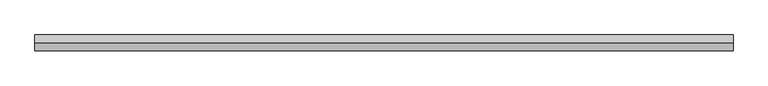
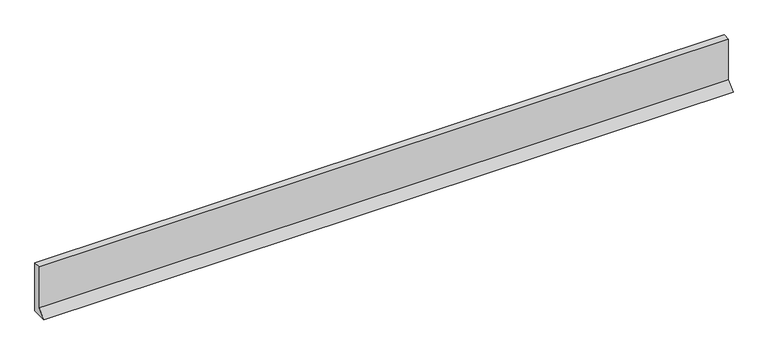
"""IFC4 building model written with IfcOpenShell, lengths in millimetres: plate geometry, ATELIERS 3S_EPURE CDB 200_HORIZONTAL : AZURO."""

import ifcopenshell
import ifcopenshell.guid

model = None  # the IFC model being written
_history = None  # IfcOwnerHistory: only IFC2X3 demands one
_inside = {}  # id of a spatial element -> (the spatial element, [elements in it])
_under = {}  # id of a project, library or spatial element -> (it, [spatial elements below it])
_declared = {}  # id of a project -> (the project, [libraries it declares])
_typed = {}  # id of a type object -> (the type object, [elements of that type])
_made_of = {}  # id of a material, layer set ... -> (it, [elements and type objects made of it])


def new_model(schema):
    """Start an empty IFC model of exactly this schema.

    Asked for "IFC4X3", IfcOpenShell would pick the latest addendum, in which some entities
    have other attributes; the version numbers below select the first issue.
    IFC2X3 requires an IfcOwnerHistory on every rooted entity: one is made here for all.
    """
    global model, _history
    if schema == "IFC4X3":
        model = ifcopenshell.file(schema_version=(4, 3, 0, 0))
    else:
        model = ifcopenshell.file(schema=schema)
    _inside.clear()
    _under.clear()
    _declared.clear()
    _typed.clear()
    _made_of.clear()
    _history = None
    if model.schema == "IFC2X3":
        org = make("IfcOrganization", Name="unknown")
        user = make(
            "IfcPersonAndOrganization",
            ThePerson=make("IfcPerson", FamilyName="unknown"),
            TheOrganization=org,
        )
        app = make(
            "IfcApplication",
            ApplicationDeveloper=org,
            Version="unknown",
            ApplicationFullName="unknown",
            ApplicationIdentifier="unknown",
        )
        _history = make(
            "IfcOwnerHistory",
            OwningUser=user,
            OwningApplication=app,
            ChangeAction="ADDED",
            CreationDate=0,
        )
    return model


def make(cls, **values):
    """One entity of the class cls with the attributes given. An attribute that is None is left unset."""
    return model.create_entity(
        cls, **{name: value for name, value in values.items() if value is not None}
    )


def rooted(cls, **values):
    """An entity with a GlobalId (a new one), such as an element, a storey or a relation."""
    return make(cls, GlobalId=ifcopenshell.guid.new(), OwnerHistory=_history, **values)


def si_unit(unit_type, name, prefix=None):
    """IfcSIUnit, for example si_unit("LENGTHUNIT", "METRE", prefix="MILLI")."""
    return make("IfcSIUnit", UnitType=unit_type, Prefix=prefix, Name=name)


def assignment(units):
    """IfcUnitAssignment: the units of a project."""
    return None if units is None else make("IfcUnitAssignment", Units=units)


def point(xyz):
    """IfcCartesianPoint."""
    return None if xyz is None else make("IfcCartesianPoint", Coordinates=xyz)


def direction(xyz):
    """IfcDirection."""
    return None if xyz is None else make("IfcDirection", DirectionRatios=xyz)


def frame(location, z_axis=None, x_axis=None):
    """IfcAxis2Placement3D, a coordinate frame: its origin and axes. An axis left out is left unset."""
    return make(
        "IfcAxis2Placement3D",
        Location=point(location),
        Axis=direction(z_axis),
        RefDirection=direction(x_axis),
    )


def origin():
    """The frame at (0, 0, 0) with its axes left unset."""
    return frame((0.0, 0.0, 0.0))


def place(relative_to, where):
    """IfcLocalPlacement: puts the frame where relative to a parent placement (None: the world)."""
    return make(
        "IfcLocalPlacement", PlacementRelTo=relative_to, RelativePlacement=where
    )


def context(
    kind, dimensions, precision=None, world=None, true_north=None, identifier=None
):
    """IfcGeometricRepresentationContext, for example the 3D "Model" context."""
    return make(
        "IfcGeometricRepresentationContext",
        ContextIdentifier=identifier,
        ContextType=kind,
        CoordinateSpaceDimension=dimensions,
        Precision=precision,
        WorldCoordinateSystem=world,
        TrueNorth=true_north,
    )


def project(units=None, contexts=None):
    """IfcProject with its units and contexts."""
    return rooted(
        "IfcProject",
        Name="project",
        RepresentationContexts=contexts,
        UnitsInContext=assignment(units),
    )


def spatial(cls, under=None, at=None, **own):
    """A site, building, storey or space (cls), placed at a placement, below another one or the project."""
    s = rooted(cls, ObjectPlacement=at, **own)
    if under is not None:
        _under.setdefault(under.id(), (under, []))[1].append(s)
    return s


def polyline(points):
    """IfcPolyline through the points."""
    return make("IfcPolyline", Points=[point(p) for p in points])


def outline(outer, holes=None, kind="AREA"):
    """IfcArbitraryClosedProfileDef: a profile drawn as a closed curve; with holes, ...WithVoids."""
    if holes is None:
        return make("IfcArbitraryClosedProfileDef", ProfileType=kind, OuterCurve=outer)
    return make(
        "IfcArbitraryProfileDefWithVoids",
        ProfileType=kind,
        OuterCurve=outer,
        InnerCurves=holes,
    )


def extrude(swept, where, along, depth):
    """IfcExtrudedAreaSolid: the profile swept, set in the frame where, extruded along a direction by depth."""
    return make(
        "IfcExtrudedAreaSolid",
        SweptArea=swept,
        Position=where,
        ExtrudedDirection=direction(along),
        Depth=depth,
    )


def shape(context_of_items, identifier, shape_type, items):
    """IfcShapeRepresentation: the items that make up one representation, for example the "Body"."""
    return make(
        "IfcShapeRepresentation",
        ContextOfItems=context_of_items,
        RepresentationIdentifier=identifier,
        RepresentationType=shape_type,
        Items=items,
    )


def source(mapping_origin, context_of_items, identifier, shape_type, items):
    """IfcRepresentationMap: a shape defined once, which mapped items show again and again."""
    return make(
        "IfcRepresentationMap",
        MappingOrigin=mapping_origin,
        MappedRepresentation=shape(context_of_items, identifier, shape_type, items),
    )


def transform(
    local_origin,
    x_axis=None,
    y_axis=None,
    z_axis=None,
    scale=None,
    scale2=None,
    scale3=None,
    uniform=True,
):
    """IfcCartesianTransformationOperator3D, or its non-uniform kind. x_axis, y_axis, z_axis: its Axis1, 2, 3."""
    if uniform:
        return make(
            "IfcCartesianTransformationOperator3D",
            Axis1=direction(x_axis),
            Axis2=direction(y_axis),
            LocalOrigin=point(local_origin),
            Scale=scale,
            Axis3=direction(z_axis),
        )
    return make(
        "IfcCartesianTransformationOperator3DnonUniform",
        Axis1=direction(x_axis),
        Axis2=direction(y_axis),
        LocalOrigin=point(local_origin),
        Scale=scale,
        Axis3=direction(z_axis),
        Scale2=scale2,
        Scale3=scale3,
    )


def mapped(mapping_source, mapping_target):
    """IfcMappedItem: shows the shape of a source again, moved by a transform."""
    return make(
        "IfcMappedItem", MappingSource=mapping_source, MappingTarget=mapping_target
    )


def made_of(thing, what):
    """Note that an element or type object is made of a material, layer set ...; save() writes the relation."""
    if what is not None:
        _made_of.setdefault(what.id(), (what, []))[1].append(thing)
    return thing


def element(
    cls,
    number,
    at=None,
    inside=None,
    cuts=None,
    type_object=None,
    material=None,
    context=None,
    identifier="Body",
    shape_type=None,
    held_by="IfcProductDefinitionShape",
    body=None,
    shapes=None,
    **own,
):
    """One element of the class cls, such as IfcWall. Its Tag is "e" and its number.

    at: its placement. inside: the storey or other place that contains it. cuts: it is an
    opening in that element (IfcRelVoidsElement). A single representation is given by context,
    identifier, shape_type and body (its items); several are given by shapes. held_by: the class
    of the entity that holds the representations. save() writes the other relations.
    """
    e = rooted(cls, Tag="e%d" % number, ObjectPlacement=at, **own)
    if body is not None:
        shapes = [shape(context, identifier, shape_type, body)]
    if shapes is not None:
        e.Representation = make(held_by, Representations=shapes)
    if inside is not None:
        _inside.setdefault(inside.id(), (inside, []))[1].append(e)
    if cuts is not None:
        rooted(
            "IfcRelVoidsElement", RelatingBuildingElement=cuts, RelatedOpeningElement=e
        )
    if type_object is not None:
        _typed.setdefault(type_object.id(), (type_object, []))[1].append(e)
    return made_of(e, material)


def aggregate(whole, parts):
    """IfcRelAggregates: a whole, such as a stair, and the parts it consists of."""
    return rooted("IfcRelAggregates", RelatingObject=whole, RelatedObjects=parts)


def save(model, path):
    """Write the relations noted so far, then the file.

    IfcRelAggregates (storeys below a building ...), IfcRelContainedInSpatialStructure (elements
    in a storey), IfcRelDefinesByType, IfcRelAssociatesMaterial and IfcRelDeclares: one each for
    every whole, place, type object, material and project.
    """
    for whole, parts in _under.values():
        aggregate(whole, parts)
    for where, things in _inside.values():
        rooted(
            "IfcRelContainedInSpatialStructure",
            RelatedElements=things,
            RelatingStructure=where,
        )
    for kind, things in _typed.values():
        rooted("IfcRelDefinesByType", RelatedObjects=things, RelatingType=kind)
    for what, things in _made_of.values():
        rooted("IfcRelAssociatesMaterial", RelatedObjects=things, RelatingMaterial=what)
    for by, libraries in _declared.values():
        rooted("IfcRelDeclares", RelatingContext=by, RelatedDefinitions=libraries)
    model.write(path)


def plate_4f3c44bf(model_context):
    return source(origin(), model_context, "Body", "SweptSolid", [
        extrude(outline(polyline([(-30.0201339, 31.7071152), (-30.0201339, 200.0), (0.0, 200.0), (0.0, 0.0), (-61.727249, 0.0), (-30.0201339, 31.7071152)])), frame((-1352.0, 0.0, 0.0), z_axis=(1.0, 0.0, 0.0), x_axis=(0.0, 1.0, 0.0)), (0.0, 0.0, 1.0), 2704.0),
    ])


if __name__ == "__main__":
    model = new_model("IFC4")
    model_context = context("Model", 3, world=origin())
    ifc_project = project(units=[si_unit("LENGTHUNIT", "METRE", prefix="MILLI")], contexts=[model_context])
    site = spatial("IfcSite", under=ifc_project)
    building = spatial("IfcBuilding", under=site)
    placement = place(None, origin())
    plate_shape = plate_4f3c44bf(model_context)
    element("IfcPlate", 1, ObjectType="ATELIERS 3S_EPURE CDB 200_HORIZONTAL : AZURO", at=placement, inside=building, context=model_context, shape_type="MappedRepresentation", body=[
        mapped(plate_shape, transform((0.0, 0.0, 0.0), x_axis=(1.0, 0.0, 0.0), y_axis=(0.0, 1.0, 0.0), z_axis=(0.0, 0.0, 1.0))),
    ])
    save(model, "model.ifc")
